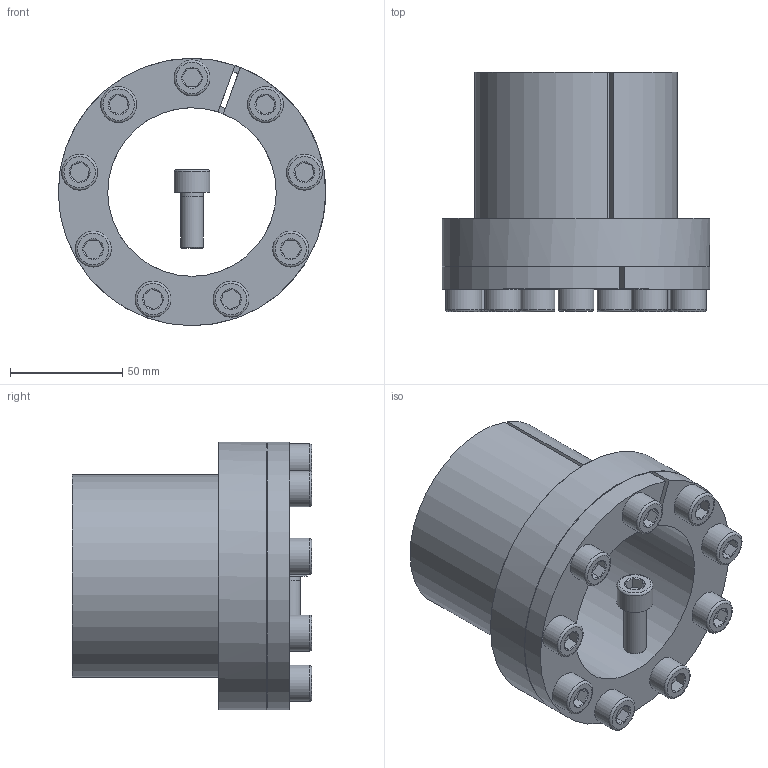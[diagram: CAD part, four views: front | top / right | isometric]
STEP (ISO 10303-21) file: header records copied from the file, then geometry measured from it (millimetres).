
FILE_DESCRIPTION( ( 'Unknown' ), '1' );
FILE_NAME( 'C:/Dokumente und Einstellungen/Sven/Desktop/homepage/cad - homepage/KBS80/KBS 80 - 70 x 90.stp', 'Unknown', ( 'Unknown' ), ( 'Unknown' ), 'XStep 1.0', 'Unknown', ' ' );
FILE_SCHEMA( ( 'automotive_design' ) );
Length unit declared in the file: millimetre
Products named in the file (11): Assem1; KBS 80 - 70 x 90; ISO EN DIN 4762 M10x25; ISO EN DIN 4762 M10x25-oa0; ISO EN DIN 4762 M10x25-oa1; ISO EN DIN 4762 M10x25-oa2; ISO EN DIN 4762 M10x25-oa3; ISO EN DIN 4762 M10x25-oa4; ISO EN DIN 4762 M10x25-oa5; ISO EN DIN 4762 M10x25-oa6; ISO EN DIN 4762 M10x25-oa7
Bounding box: 119 x 106.5 x 119 mm (x, y, z)
Volume: 688888.6 mm3; surface area: 184278.9 mm2
Topology: 20 solids, 20 shells, 512 faces, 960 edges, 558 vertices
Faces by surface type: plane 236, cone 140, cylinder 100, torus 36
Full cylindrical faces by diameter (mm): 9 x18, 10 x54, 16 x18, 75 x2, 119 x2
Entity records: 6436 total; most frequent: CARTESIAN_POINT 1338, DIRECTION 1046, ORIENTED_EDGE 762, AXIS2_PLACEMENT_3D 458, EDGE_LOOP 391, EDGE_CURVE 381, FACE_OUTER_BOUND 321, VERTEX_POINT 258
